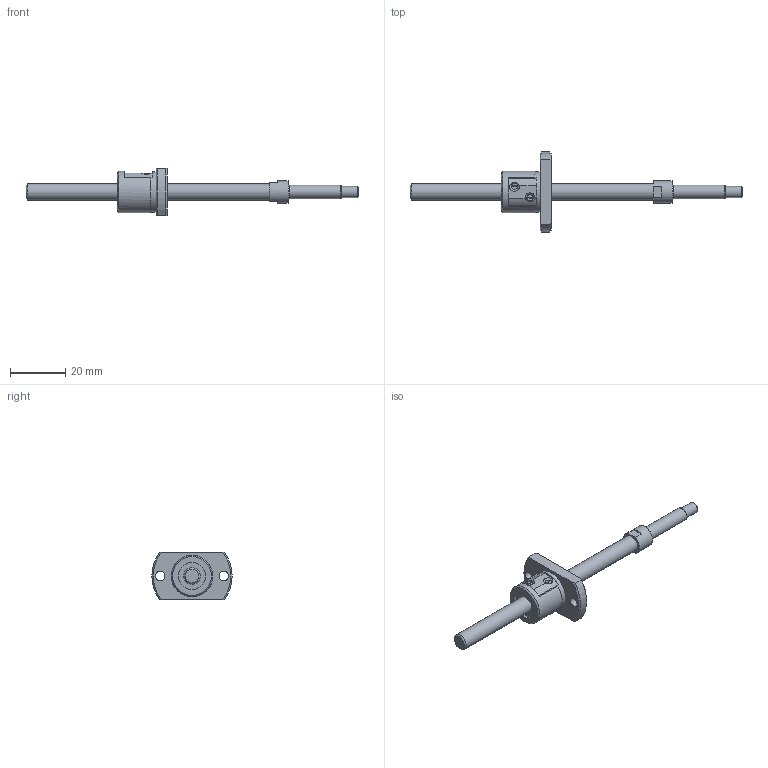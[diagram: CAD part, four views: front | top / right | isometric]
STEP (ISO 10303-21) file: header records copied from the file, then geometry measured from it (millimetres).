
FILE_DESCRIPTION( ( 'STEP AP214' ), '1' );
FILE_NAME( 'p:/temp/worker_8/1096_1344/app_63_12015063014011078118991260eae72_00_00_00_000/STEP/SG0602_5-085R120C3A1X_33__2_14.stp', ' ', ( ' ' ), ( ' ' ), 'PSStep 15.0.47', 'PARTsolutions', ' ' );
FILE_SCHEMA( ( 'AUTOMOTIVE_DESIGN { 1 0 10303 214 1 1 1 1 }' ) );
Length unit declared in the file: millimetre
Products named in the file (3): SG0602.5-085R120C3A1X(33); _SG0602.5-85R120C3A_shaft; _SG0602.5_nut
Assembly tree (2 placements, depth 2):
  SG0602.5-085R120C3A1X(33)
    _SG0602.5-85R120C3A_shaft
    _SG0602.5_nut
Bounding box: 120 x 29 x 17 mm (x, y, z)
Volume: 6828.1 mm3; surface area: 4574.9 mm2
Topology: 2 solids, 2 shells, 71 faces, 174 edges, 115 vertices
Faces by surface type: plane 34, cylinder 23, cone 13, torus 1
Full cylindrical faces by diameter (mm): 3.4 x2, 4 x1, 5 x1, 6 x2, 8 x1, 10 x2, 14.6 x1, 15 x1
Entity records: 2588 total; most frequent: CARTESIAN_POINT 396, DIRECTION 340, ORIENTED_EDGE 286, EDGE_CURVE 143, AXIS2_PLACEMENT_3D 141, EDGE_LOOP 106, VERTEX_POINT 105, FACE_OUTER_BOUND 83
